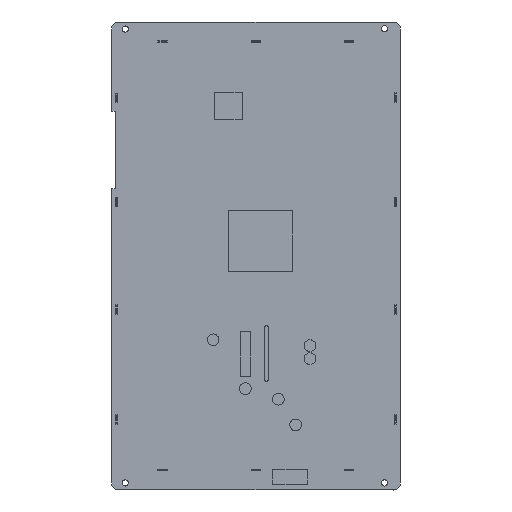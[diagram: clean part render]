
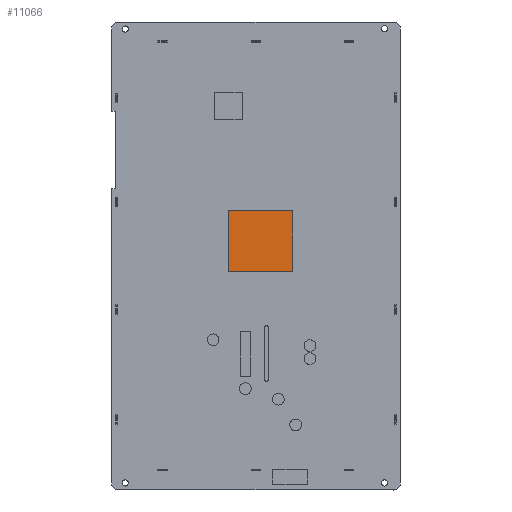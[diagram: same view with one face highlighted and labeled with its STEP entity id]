
A CAD part, top view. The second image highlights one B-rep face of the part: STEP entity #11066.
In plain terms, the highlighted planar face has unit normal (0, 0, 1).
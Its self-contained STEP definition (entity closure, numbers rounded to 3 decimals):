
#3421=DIRECTION('',(-1.,0.,0.));
#3422=VECTOR('',#3421,34.417);
#3423=CARTESIAN_POINT('',(20.434,24.34,5.2));
#3424=LINE('',#3423,#3422);
#3425=DIRECTION('',(0.,1.,0.));
#3426=VECTOR('',#3425,32.766);
#3427=CARTESIAN_POINT('',(20.434,-8.426,5.2));
#3428=LINE('',#3427,#3426);
#3429=DIRECTION('',(1.,0.,0.));
#3430=VECTOR('',#3429,34.417);
#3431=CARTESIAN_POINT('',(-13.983,-8.426,5.2));
#3432=LINE('',#3431,#3430);
#3433=DIRECTION('',(0.,-1.,0.));
#3434=VECTOR('',#3433,32.766);
#3435=CARTESIAN_POINT('',(-13.983,24.34,5.2));
#3436=LINE('',#3435,#3434);
#3897=CARTESIAN_POINT('',(20.434,24.34,5.2));
#3898=CARTESIAN_POINT('',(-13.983,24.34,5.2));
#3899=VERTEX_POINT('',#3897);
#3900=VERTEX_POINT('',#3898);
#3901=CARTESIAN_POINT('',(-13.983,-8.426,5.2));
#3902=VERTEX_POINT('',#3901);
#3903=CARTESIAN_POINT('',(20.434,-8.426,5.2));
#3904=VERTEX_POINT('',#3903);
#11055=CARTESIAN_POINT('',(-77.051,36.1,5.2));
#11056=DIRECTION('',(0.,0.,1.));
#11057=DIRECTION('',(0.,-1.,0.));
#11058=AXIS2_PLACEMENT_3D('',#11055,#11056,#11057);
#11059=PLANE('',#11058);
#11060=ORIENTED_EDGE('',*,*,#10979,.F.);
#11061=ORIENTED_EDGE('',*,*,#11001,.F.);
#11062=ORIENTED_EDGE('',*,*,#11022,.F.);
#11063=ORIENTED_EDGE('',*,*,#11042,.F.);
#11064=EDGE_LOOP('',(#11060,#11061,#11062,#11063));
#11065=FACE_OUTER_BOUND('',#11064,.F.);
#10979=EDGE_CURVE('',#3899,#3900,#3424,.T.);
#11001=EDGE_CURVE('',#3904,#3899,#3428,.T.);
#11022=EDGE_CURVE('',#3902,#3904,#3432,.T.);
#11042=EDGE_CURVE('',#3900,#3902,#3436,.T.);
#11066=ADVANCED_FACE('',(#11065),#11059,.T.);
